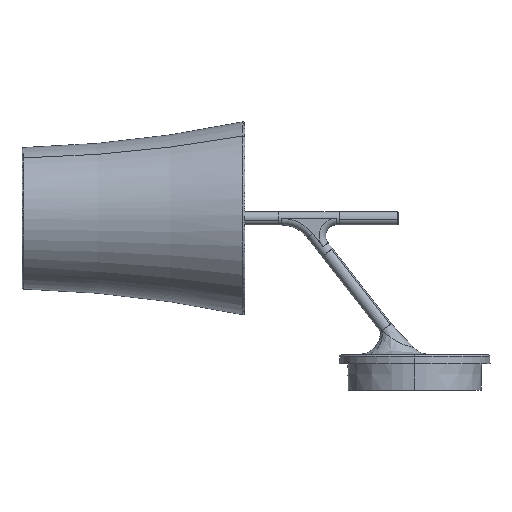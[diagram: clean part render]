
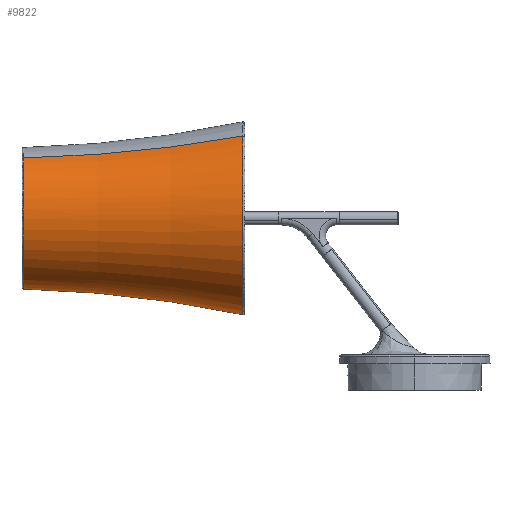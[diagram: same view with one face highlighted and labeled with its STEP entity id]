
A CAD part, left-side view. The second image highlights one B-rep face of the part: STEP entity #9822.
In plain terms, the highlighted toroidal (fillet/blend) face has major radius 1183.62 mm and minor radius 1120 mm.
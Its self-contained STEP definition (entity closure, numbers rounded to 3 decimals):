
#648 = CARTESIAN_POINT ( 'NONE',  ( -114.119, 168.487, 109.335 ) ) ;
#715 = ORIENTED_EDGE ( 'NONE', *, *, #9084, .T. ) ;
#824 = DIRECTION ( 'NONE',  ( 0.524, 0., -0.851 ) ) ;
#826 = CARTESIAN_POINT ( 'NONE',  ( -119.541, 168.487, 111.202 ) ) ;
#843 = CARTESIAN_POINT ( 'NONE',  ( -58.387, 366.523, 136.117 ) ) ;
#883 = FACE_OUTER_BOUND ( 'NONE', #4140, .T. ) ;
#1005 = CARTESIAN_POINT ( 'NONE',  ( -129.323, 366.523, 143.408 ) ) ;
#1165 = CIRCLE ( 'NONE', #1696, 1120. ) ;
#1463 = DIRECTION ( 'NONE',  ( -0.524, 0., 0.851 ) ) ;
#1489 = CARTESIAN_POINT ( 'NONE',  ( -172.124, 168.487, 167.834 ) ) ;
#1546 = DIRECTION ( 'NONE',  ( 0.851, 0., 0.524 ) ) ;
#1548 = CARTESIAN_POINT ( 'NONE',  ( -155.71, 168.487, 248.563 ) ) ;
#1602 = CARTESIAN_POINT ( 'NONE',  ( -143.546, 168.487, 260.624 ) ) ;
#1654 = CARTESIAN_POINT ( 'NONE',  ( 532.271, 397.048, -814.992 ) ) ;
#1696 = AXIS2_PLACEMENT_3D ( 'NONE', #1654, #1546, #824 ) ;
#1713 = CARTESIAN_POINT ( 'NONE',  ( -170.042, 168.487, 223.985 ) ) ;
#1730 = CARTESIAN_POINT ( 'NONE',  ( -62.173, 366.523, 134.271 ) ) ;
#1782 = CARTESIAN_POINT ( 'NONE',  ( -82.38, 366.523, 128.95 ) ) ;
#1897 = CARTESIAN_POINT ( 'NONE',  ( -134.122, 168.487, 267.087 ) ) ;
#2208 = VERTEX_POINT ( 'NONE', #9425 ) ;
#2310 = CARTESIAN_POINT ( 'NONE',  ( -709.071, 397.048, 1200.679 ) ) ;
#2393 = CARTESIAN_POINT ( 'NONE',  ( -85.928, 168.487, 105.499 ) ) ;
#2523 = B_SPLINE_CURVE_WITH_KNOTS ( 'NONE', 3,
 ( #3514, #2674, #6922, #10379, #5981, #10266, #2393, #5923, #10914, #648, #826, #11081, #8429, #2558, #9340, #5765, #3346, #5874, #4982, #1489, #3228, #3398, #6802, #4074, #9395, #9233, #1713, #5146, #9281, #1548, #8378, #1602, #4182, #6627 ),
 .UNSPECIFIED., .F., .F.,
 ( 4, 2, 2, 2, 2, 2, 2, 2, 2, 2, 2, 2, 2, 2, 2, 2, 4 ),
 ( 0.5, 0.531, 0.563, 0.594, 0.625, 0.656, 0.688, 0.719, 0.75, 0.781, 0.813, 0.844, 0.875, 0.906, 0.938, 0.969, 1. ),
 .UNSPECIFIED. ) ;
#2558 = CARTESIAN_POINT ( 'NONE',  ( -144.119, 168.487, 125.534 ) ) ;
#2576 = CARTESIAN_POINT ( 'NONE',  ( -118.892, 366.523, 136.374 ) ) ;
#2590 = CARTESIAN_POINT ( 'NONE',  ( -121.981, 366.523, 247.373 ) ) ;
#2674 = CARTESIAN_POINT ( 'NONE',  ( -47.536, 168.487, 115.608 ) ) ;
#2675 = CARTESIAN_POINT ( 'NONE',  ( -151.673, 366.523, 203.578 ) ) ;
#2722 = CARTESIAN_POINT ( 'NONE',  ( -148.363, 366.523, 215.716 ) ) ;
#3190 = CARTESIAN_POINT ( 'NONE',  ( -121.981, 366.523, 247.373 ) ) ;
#3228 = CARTESIAN_POINT ( 'NONE',  ( -173.584, 168.487, 173.379 ) ) ;
#3251 = CARTESIAN_POINT ( 'NONE',  ( -135.046, 366.523, 236.922 ) ) ;
#3346 = CARTESIAN_POINT ( 'NONE',  ( -159.651, 168.487, 142.262 ) ) ;
#3348 = DIRECTION ( 'NONE',  ( 0.524, 0., -0.851 ) ) ;
#3398 = CARTESIAN_POINT ( 'NONE',  ( -175.395, 168.487, 184.648 ) ) ;
#3514 = CARTESIAN_POINT ( 'NONE',  ( -42.677, 168.487, 118.6 ) ) ;
#3556 = ORIENTED_EDGE ( 'NONE', *, *, #8364, .F. ) ;
#3618 = CARTESIAN_POINT ( 'NONE',  ( -111.272, 366.523, 132.881 ) ) ;
#3932 = VERTEX_POINT ( 'NONE', #8899 ) ;
#4074 = CARTESIAN_POINT ( 'NONE',  ( -175.322, 168.487, 201.777 ) ) ;
#4140 = EDGE_LOOP ( 'NONE', ( #3556, #9805, #715, #6033 ) ) ;
#4182 = CARTESIAN_POINT ( 'NONE',  ( -138.982, 168.487, 264.095 ) ) ;
#4255 = CARTESIAN_POINT ( 'NONE',  ( -107.29, 366.523, 131.51 ) ) ;
#4400 = CARTESIAN_POINT ( 'NONE',  ( -145.127, 366.523, 162.831 ) ) ;
#4982 = CARTESIAN_POINT ( 'NONE',  ( -168.15, 168.487, 157.134 ) ) ;
#5055 = CARTESIAN_POINT ( 'NONE',  ( -144.87, 366.523, 223.336 ) ) ;
#5146 = CARTESIAN_POINT ( 'NONE',  ( -165.287, 168.487, 234.361 ) ) ;
#5209 = CARTESIAN_POINT ( 'NONE',  ( -70.031, 366.523, 131.352 ) ) ;
#5244 = EDGE_CURVE ( 'NONE', #2208, #10338, #2523, .T. ) ;
#5765 = CARTESIAN_POINT ( 'NONE',  ( -156.18, 168.487, 137.698 ) ) ;
#5874 = CARTESIAN_POINT ( 'NONE',  ( -165.636, 168.487, 151.98 ) ) ;
#5923 = CARTESIAN_POINT ( 'NONE',  ( -97.333, 168.487, 105.922 ) ) ;
#5981 = CARTESIAN_POINT ( 'NONE',  ( -68.935, 168.487, 107.66 ) ) ;
#5999 = CARTESIAN_POINT ( 'NONE',  ( -150.964, 366.523, 178.548 ) ) ;
#6033 = ORIENTED_EDGE ( 'NONE', *, *, #5244, .T. ) ;
#6142 = CARTESIAN_POINT ( 'NONE',  ( -152.294, 366.523, 186.824 ) ) ;
#6627 = CARTESIAN_POINT ( 'NONE',  ( -134.122, 168.487, 267.087 ) ) ;
#6648 = CARTESIAN_POINT ( 'NONE',  ( -137.836, 366.523, 233.767 ) ) ;
#6802 = CARTESIAN_POINT ( 'NONE',  ( -175.745, 168.487, 190.372 ) ) ;
#6818 = CARTESIAN_POINT ( 'NONE',  ( -132.478, 366.523, 146.198 ) ) ;
#6922 = CARTESIAN_POINT ( 'NONE',  ( -52.69, 168.487, 113.094 ) ) ;
#7032 = AXIS2_PLACEMENT_3D ( 'NONE', #2310, #9947, #1463 ) ;
#7034 = CARTESIAN_POINT ( 'NONE',  ( -146.973, 366.523, 166.617 ) ) ;
#7213 = CIRCLE ( 'NONE', #7032, 1120. ) ;
#7247 = TOROIDAL_SURFACE ( 'NONE', #8694, 1183.624, 1120. ) ;
#7662 = CARTESIAN_POINT ( 'NONE',  ( -99.134, 366.523, 129.571 ) ) ;
#7811 = CARTESIAN_POINT ( 'NONE',  ( -140.731, 366.523, 155.694 ) ) ;
#8364 = EDGE_CURVE ( 'NONE', #10109, #10338, #7213, .T. ) ;
#8378 = CARTESIAN_POINT ( 'NONE',  ( -151.91, 168.487, 252.858 ) ) ;
#8429 = CARTESIAN_POINT ( 'NONE',  ( -134.87, 168.487, 118.846 ) ) ;
#8494 = CARTESIAN_POINT ( 'NONE',  ( -88.4, 397.048, 192.844 ) ) ;
#8514 = CARTESIAN_POINT ( 'NONE',  ( -86.584, 366.523, 128.693 ) ) ;
#8570 = CARTESIAN_POINT ( 'NONE',  ( -149.892, 366.523, 174.475 ) ) ;
#8624 = CARTESIAN_POINT ( 'NONE',  ( -152.24, 366.523, 199.405 ) ) ;
#8682 = CARTESIAN_POINT ( 'NONE',  ( -149.734, 366.523, 211.734 ) ) ;
#8694 = AXIS2_PLACEMENT_3D ( 'NONE', #8494, #11026, #3348 ) ;
#8736 = CARTESIAN_POINT ( 'NONE',  ( -152.551, 366.523, 191.028 ) ) ;
#8817 = B_SPLINE_CURVE_WITH_KNOTS ( 'NONE', 3,
 ( #3190, #10051, #10937, #3251, #6648, #9251, #5055, #2722, #8682, #2675, #8624, #8736, #6142, #5999, #8570, #7034, #4400, #7811, #9413, #6818, #1005, #9631, #2576, #3618, #4255, #7662, #10283, #8514, #1782, #10381, #5209, #1730, #843, #9580 ),
 .UNSPECIFIED., .F., .F.,
 ( 4, 2, 2, 2, 2, 2, 2, 2, 2, 2, 2, 2, 2, 2, 2, 2, 4 ),
 ( 0., 0.031, 0.063, 0.094, 0.125, 0.156, 0.188, 0.219, 0.25, 0.281, 0.313, 0.344, 0.375, 0.406, 0.438, 0.469, 0.5 ),
 .UNSPECIFIED. ) ;
#8899 = CARTESIAN_POINT ( 'NONE',  ( -54.819, 366.523, 138.315 ) ) ;
#9084 = EDGE_CURVE ( 'NONE', #3932, #2208, #1165, .T. ) ;
#9233 = CARTESIAN_POINT ( 'NONE',  ( -171.909, 168.487, 218.563 ) ) ;
#9251 = CARTESIAN_POINT ( 'NONE',  ( -142.748, 366.523, 226.974 ) ) ;
#9281 = CARTESIAN_POINT ( 'NONE',  ( -162.398, 168.487, 239.314 ) ) ;
#9340 = CARTESIAN_POINT ( 'NONE',  ( -148.414, 168.487, 129.333 ) ) ;
#9395 = CARTESIAN_POINT ( 'NONE',  ( -174.549, 168.487, 207.459 ) ) ;
#9413 = CARTESIAN_POINT ( 'NONE',  ( -138.181, 366.523, 152.341 ) ) ;
#9425 = CARTESIAN_POINT ( 'NONE',  ( -42.677, 168.487, 118.6 ) ) ;
#9580 = CARTESIAN_POINT ( 'NONE',  ( -54.819, 366.523, 138.315 ) ) ;
#9631 = CARTESIAN_POINT ( 'NONE',  ( -122.531, 366.523, 138.495 ) ) ;
#9805 = ORIENTED_EDGE ( 'NONE', *, *, #10845, .T. ) ;
#9822 = ADVANCED_FACE ( 'NONE', ( #883 ), #7247, .F. ) ;
#9947 = DIRECTION ( 'NONE',  ( -0.851, 0., -0.524 ) ) ;
#10051 = CARTESIAN_POINT ( 'NONE',  ( -125.55, 366.523, 245.175 ) ) ;
#10109 = VERTEX_POINT ( 'NONE', #2590 ) ;
#10266 = CARTESIAN_POINT ( 'NONE',  ( -80.204, 168.487, 105.849 ) ) ;
#10283 = CARTESIAN_POINT ( 'NONE',  ( -94.961, 366.523, 129.003 ) ) ;
#10338 = VERTEX_POINT ( 'NONE', #1897 ) ;
#10379 = CARTESIAN_POINT ( 'NONE',  ( -63.39, 168.487, 109.12 ) ) ;
#10381 = CARTESIAN_POINT ( 'NONE',  ( -74.104, 366.523, 130.28 ) ) ;
#10845 = EDGE_CURVE ( 'NONE', #10109, #3932, #8817, .T. ) ;
#10914 = CARTESIAN_POINT ( 'NONE',  ( -103.015, 168.487, 106.695 ) ) ;
#10937 = CARTESIAN_POINT ( 'NONE',  ( -128.902, 366.523, 242.625 ) ) ;
#11026 = DIRECTION ( 'NONE',  ( 0., 1., 0. ) ) ;
#11081 = CARTESIAN_POINT ( 'NONE',  ( -129.917, 168.487, 115.957 ) ) ;
